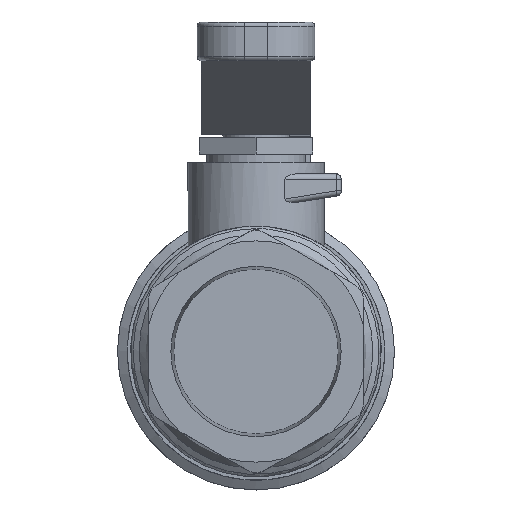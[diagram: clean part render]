
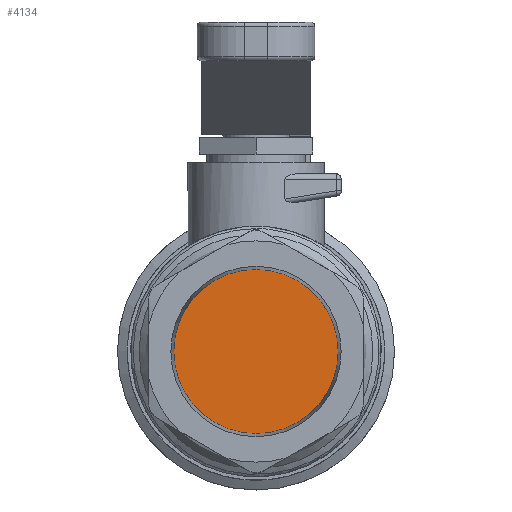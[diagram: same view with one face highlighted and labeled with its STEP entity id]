
A CAD part, left-side view. The second image highlights one B-rep face of the part: STEP entity #4134.
In plain terms, the highlighted free-form (B-spline) face has degree [1, 1] with [2, 2] control points.
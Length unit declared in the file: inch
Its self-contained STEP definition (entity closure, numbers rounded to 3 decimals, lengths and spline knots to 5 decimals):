
#4118=CARTESIAN_POINT('',(0.5533,0.47746,0.47746));
#4119=CARTESIAN_POINT('',(0.5533,-0.47746,0.47746));
#4120=CARTESIAN_POINT('',(0.5533,0.47746,-0.47746));
#4121=CARTESIAN_POINT('',(0.5533,-0.47746,-0.47746));
#4122=B_SPLINE_SURFACE_WITH_KNOTS('',1,1,((#4118,#4120),(#4119,#4121)),.UNSPECIFIED.,.F.,.F.,.U.,(2,2),(2,2),(0.0,0.95492),(0.0,0.95492),.UNSPECIFIED.);
#4123=CARTESIAN_POINT('',(0.5533,0.47746,0.0));
#4124=VERTEX_POINT('',#4123);
#4125=CARTESIAN_POINT('',(0.5533,0.0,0.0));
#4126=DIRECTION('',(1.0,0.0,0.0));
#4127=DIRECTION('',(0.0,1.0,0.0));
#4128=AXIS2_PLACEMENT_3D('',#4125,#4126,#4127);
#4129=CIRCLE('',#4128,0.47746);
#4130=EDGE_CURVE('',#4124,#4124,#4129,.T.);
#4131=ORIENTED_EDGE('',*,*,#4130,.F.);
#4132=EDGE_LOOP('',(#4131));
#4133=FACE_OUTER_BOUND('',#4132,.T.);
#4134=ADVANCED_FACE('',(#4133),#4122,.F.);
